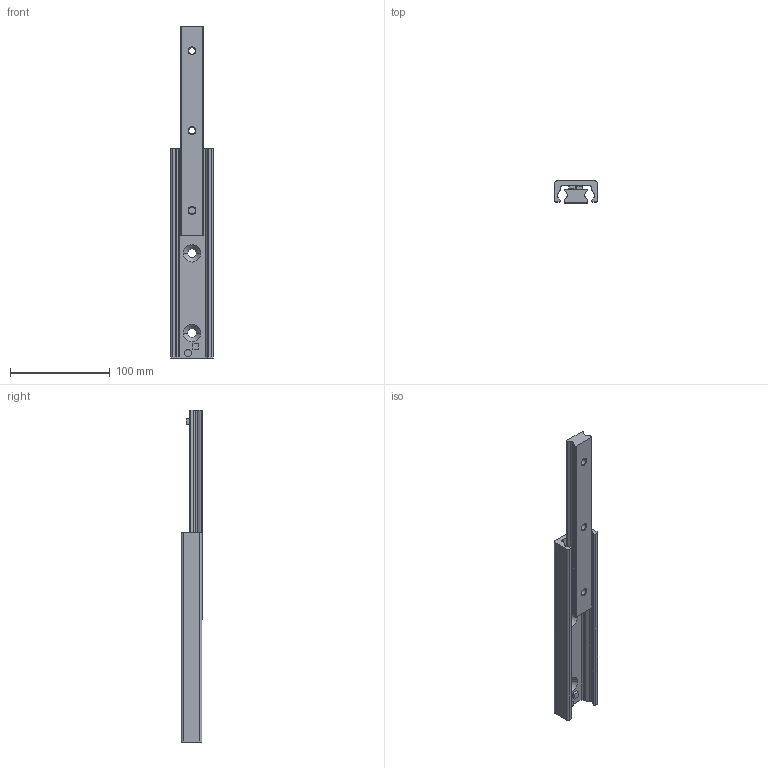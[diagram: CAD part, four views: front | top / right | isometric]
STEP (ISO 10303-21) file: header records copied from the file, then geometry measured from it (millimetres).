
FILE_DESCRIPTION(('STEP AP214'),'1');
FILE_NAME('rail_asn43-210_01.stp','2017-06-06T10:19:48',('TraceParts'),('TraceParts S.A.'),'Spatial InterOp 3D',' ',' ');
FILE_SCHEMA(('automotive_design'));
Length unit declared in the file: millimetre
Products named in the file (2): rail_asn43-210_01_1; rail_asn43-210_01_2
Bounding box: 43 x 22.01 x 333 mm (x, y, z)
Volume: 127962.5 mm3; surface area: 50862.6 mm2
Topology: 2 solids, 2 shells, 107 faces, 276 edges, 178 vertices
Faces by surface type: plane 46, cylinder 43, cone 18
Entity records: 3324 total; most frequent: DIRECTION 598, CARTESIAN_POINT 563, ORIENTED_EDGE 552, EDGE_CURVE 276, AXIS2_PLACEMENT_3D 213, VERTEX_POINT 178, LINE 172, VECTOR 172
